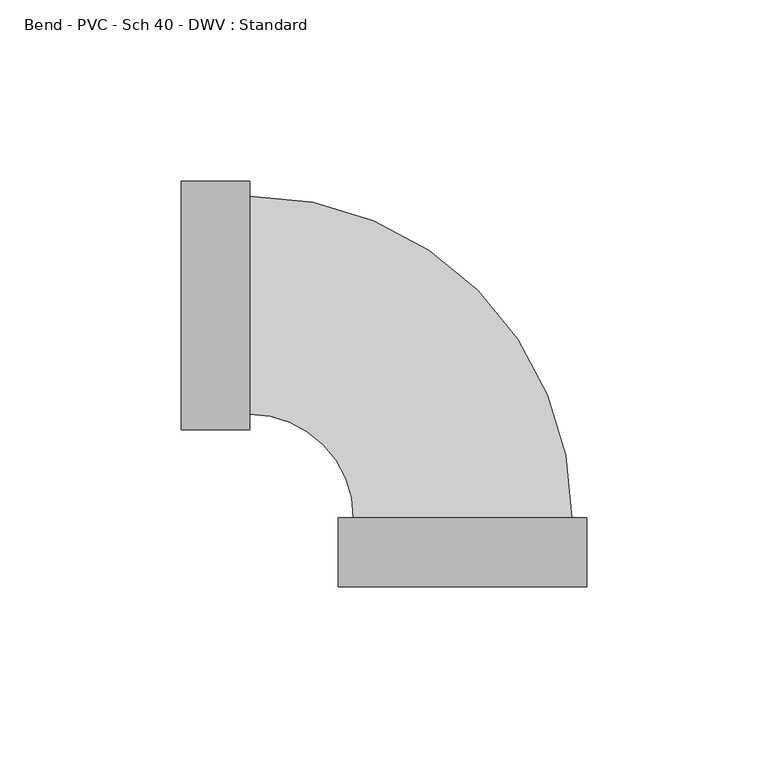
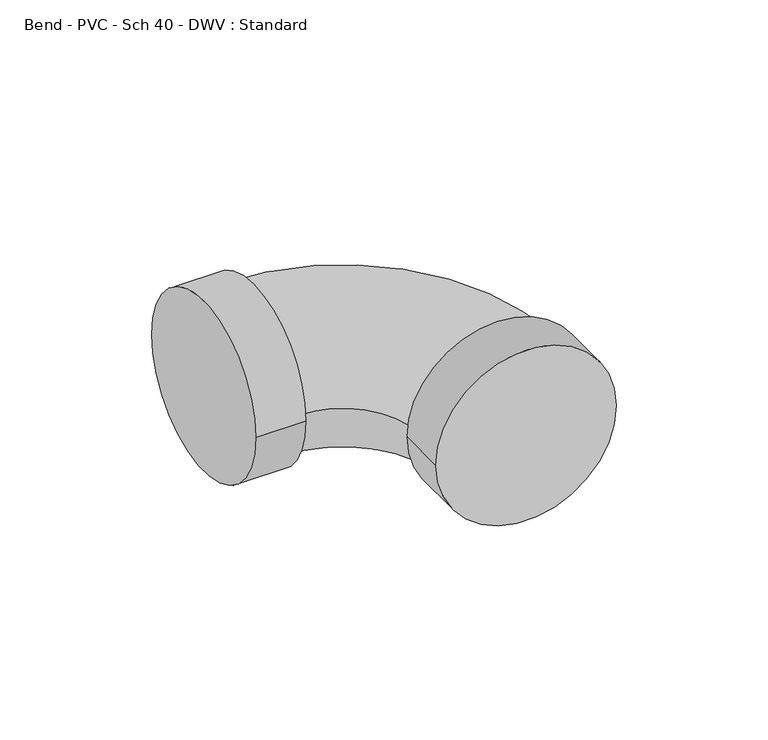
"""IFC4 building model written with IfcOpenShell, lengths in millimetres: pipe fitting geometry, Bend - PVC - Sch 40 - DWV : Standard."""

from ifc_helpers import new_model, si_unit, point, frame, origin, place, context, project, spatial, circle_curve, ellipse_curve, trimmed, source, transform, mapped, element, save
from ifc_brep_helpers import plane_surface, cylinder_surface, revolved_surface, advanced_brep


def bend_pvc_sch_40_dwv_standard_49f8c181(model_context):
    return source(origin(), model_context, "Body", "AdvancedBrep", [
        advanced_brep(
        [(-77.8002, 34.3154, 0.0), (-77.8002, -34.3154, 0.0), (-58.7502, 34.3154, 0.0), (-58.7502, -34.3154, 0.0), (-58.7502, 30.1625, 0.0), (-58.7502, -30.1625, 0.0), (-30.1625, -58.7502, 0.0), (30.1625, -58.7502, 0.0), (34.3154, -58.7502, 0.0), (-34.3154, -58.7502, 0.0), (34.3154, -77.8002, 0.0), (-34.3154, -77.8002, 0.0)],
        [
            (0, 1, circle_curve(frame((-77.8002, 0.0, 0.0), z_axis=(-1.0, 0.0, 0.0), x_axis=(0.0, -1.0, 0.0)), 34.3154)),
            (1, 0, circle_curve(frame((-77.8002, 0.0, 0.0), z_axis=(-1.0, 0.0, 0.0), x_axis=(0.0, -1.0, 0.0)), 34.3154)),
            (2, 3, circle_curve(frame((-58.7502, 0.0, 0.0), z_axis=(1.0, 0.0, 0.0), x_axis=(0.0, -1.0, 0.0)), 34.3154)),
            (3, 2, circle_curve(frame((-58.7502, 0.0, 0.0), z_axis=(1.0, 0.0, 0.0), x_axis=(0.0, -1.0, 0.0)), 34.3154)),
            (4, 5, circle_curve(frame((-58.7502, 0.0, 0.0), z_axis=(-1.0, 0.0, 0.0), x_axis=(0.0, -1.0, 0.0)), 30.1625)),
            (5, 4, circle_curve(frame((-58.7502, 0.0, 0.0), z_axis=(-1.0, 0.0, 0.0), x_axis=(0.0, -1.0, 0.0)), 30.1625)),
            (1, 3),
            (2, 0),
            (6, 7, circle_curve(frame((0.0, -58.7502, 0.0), z_axis=(0.0, 1.0, 0.0), x_axis=(-1.0, 0.0, 0.0)), 30.1625)),
            (7, 4, circle_curve(frame((-58.7502, -58.7502, 0.0), z_axis=(0.0, 0.0, 1.0), x_axis=(0.0, 1.0, 0.0)), 88.9127)),
            (5, 6, circle_curve(frame((-58.7502, -58.7502, 0.0), z_axis=(0.0, 0.0, -1.0), x_axis=(0.0, 1.0, 0.0)), 28.5877)),
            (7, 6, circle_curve(frame((0.0, -58.7502, 0.0), z_axis=(0.0, 1.0, 0.0), x_axis=(-1.0, 0.0, 0.0)), 30.1625)),
            (8, 9, circle_curve(frame((0.0, -58.7502, 0.0), z_axis=(0.0, 1.0, 0.0), x_axis=(-1.0, 0.0, 0.0)), 34.3154)),
            (9, 8, circle_curve(frame((0.0, -58.7502, 0.0), z_axis=(0.0, 1.0, 0.0), x_axis=(-1.0, 0.0, 0.0)), 34.3154)),
            (10, 11, circle_curve(frame((0.0, -77.8002, 0.0), z_axis=(0.0, -1.0, 0.0), x_axis=(-1.0, 0.0, 0.0)), 34.3154)),
            (11, 10, circle_curve(frame((0.0, -77.8002, 0.0), z_axis=(0.0, -1.0, 0.0), x_axis=(-1.0, 0.0, 0.0)), 34.3154)),
            (9, 11),
            (10, 8),
        ],
        [
            plane_surface(frame((-77.8002, 0.0, 0.0), z_axis=(-1.0, 0.0, 0.0), x_axis=(0.0, 0.0, 1.0))),
            plane_surface(frame((-58.7502, 0.0, 0.0), z_axis=(1.0, 0.0, 0.0), x_axis=(0.0, 0.0, 1.0))),
            cylinder_surface(frame((-77.8002, 0.0, 0.0), z_axis=(-1.0, 0.0, 0.0), x_axis=(0.0, -1.0, 0.0)), 34.3154),
            revolved_surface(trimmed(ellipse_curve(frame((-58.7502, 0.0, 0.0), z_axis=(1.0, 0.0, 0.0), x_axis=(0.0, -1.0, 0.0)), 30.1625, 30.1625), [point((-58.7502, 30.1625, 0.0))], [point((-58.7502, -30.1625, 0.0))], True, "CARTESIAN"), (-58.7502, -58.7502, 0.0), (0.0, 0.0, 1.0)),
            revolved_surface(trimmed(ellipse_curve(frame((-58.7502, 0.0, 0.0), z_axis=(1.0, 0.0, 0.0), x_axis=(0.0, -1.0, 0.0)), 30.1625, 30.1625), [point((-58.7502, -30.1625, 0.0))], [point((-58.7502, 30.1625, 0.0))], True, "CARTESIAN"), (-58.7502, -58.7502, 0.0), (0.0, 0.0, 1.0)),
            plane_surface(frame((0.0, -58.7502, 0.0), z_axis=(0.0, 1.0, 0.0), x_axis=(0.0, 0.0, 1.0))),
            plane_surface(frame((0.0, -77.8002, 0.0), z_axis=(0.0, -1.0, 0.0), x_axis=(0.0, 0.0, 1.0))),
            cylinder_surface(frame((0.0, -58.7502, 0.0), z_axis=(0.0, 1.0, 0.0), x_axis=(-1.0, 0.0, 0.0)), 34.3154),
        ],
        [
            (0, [[1, 2]]),
            (1, [[3, 4], [5, 6]]),
            (2, [[7, -3, 8, -2]]),
            (2, [[-8, -4, -7, -1]]),
            (3, [[9, 10, -6, 11]]),
            (4, [[-5, -10, 12, -11]]),
            (5, [[13, 14], [-12, -9]]),
            (6, [[15, 16]]),
            (7, [[17, -15, 18, -14]]),
            (7, [[-18, -16, -17, -13]]),
        ],
    ),
    ])


if __name__ == "__main__":
    model = new_model("IFC4")
    model_context = context("Model", 3, world=origin())
    ifc_project = project(units=[si_unit("LENGTHUNIT", "METRE", prefix="MILLI")], contexts=[model_context])
    site = spatial("IfcSite", under=ifc_project)
    building = spatial("IfcBuilding", under=site)
    placement = place(None, origin())
    bend_pvc_sch_40_dwv_standard_shape = bend_pvc_sch_40_dwv_standard_49f8c181(model_context)
    element("IfcPipeFitting", 1, ObjectType="Bend - PVC - Sch 40 - DWV : Standard", at=placement, inside=building, context=model_context, shape_type="MappedRepresentation", body=[
        mapped(bend_pvc_sch_40_dwv_standard_shape, transform((0.0, 0.0, 0.0), x_axis=(1.0, 0.0, 0.0), y_axis=(0.0, 1.0, 0.0), z_axis=(0.0, 0.0, 1.0))),
    ])
    save(model, "model.ifc")
